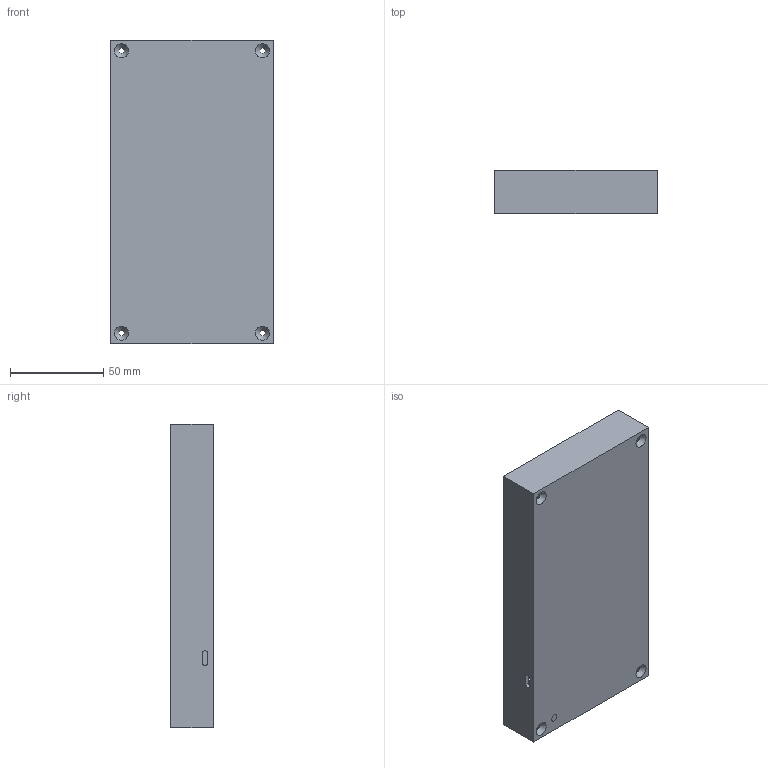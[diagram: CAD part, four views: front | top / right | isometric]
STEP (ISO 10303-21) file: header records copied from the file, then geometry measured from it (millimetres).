
FILE_DESCRIPTION(/* description */ (''),/* implementation_level */ '2;1');
FILE_NAME(/* name */ 'C:\Users\qpfin\Desktop\Base.stp',/* time_stamp */ '2021-04-03T00:32:46-05:00',/* author */ ('qpfin'),/* organization */ (''),/* preprocessor_version */ 'ST-DEVELOPER v18.1',/* originating_system */ 'Autodesk Inventor 2021',/* authorisation */ '');
FILE_SCHEMA (('AUTOMOTIVE_DESIGN { 1 0 10303 214 3 1 1 }'));
Length unit declared in the file: millimetre
Products named in the file (1): Base pt2
Bounding box: 87.25 x 23 x 163.25 mm (x, y, z)
Volume: 60773.1 mm3; surface area: 50012.3 mm2
Topology: 1 solids, 1 shells, 34 faces, 93 edges, 64 vertices
Faces by surface type: plane 23, cylinder 7, cone 4
Full cylindrical faces by diameter (mm): 3 x4, 4 x1
Entity records: 1154 total; most frequent: CARTESIAN_POINT 192, DIRECTION 191, ORIENTED_EDGE 186, EDGE_CURVE 93, LINE 65, VECTOR 65, VERTEX_POINT 64, AXIS2_PLACEMENT_3D 63
